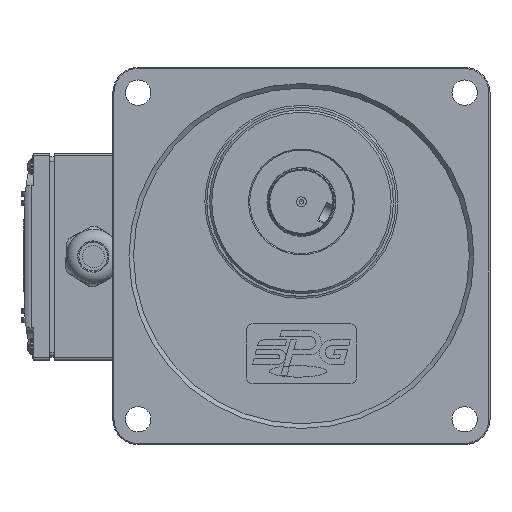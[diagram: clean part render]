
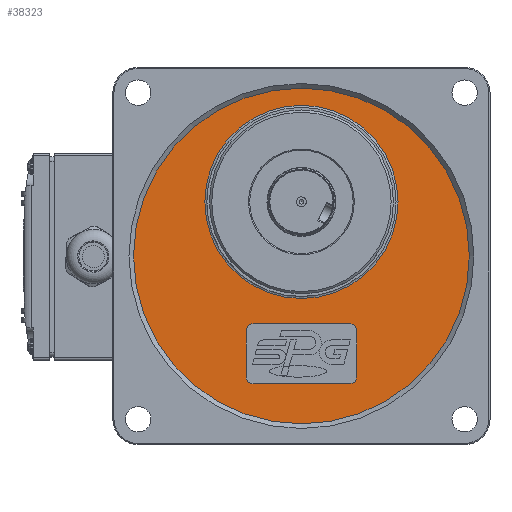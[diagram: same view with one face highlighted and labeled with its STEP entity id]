
A CAD part, top view. The second image highlights one B-rep face of the part: STEP entity #38323.
In plain terms, the highlighted planar face has unit normal (0, 0, 1).
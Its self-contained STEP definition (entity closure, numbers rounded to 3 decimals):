
#1316=FACE_BOUND('',#6558,.T.);
#1317=FACE_BOUND('',#6559,.T.);
#2057=PLANE('',#41962);
#4269=FACE_OUTER_BOUND('',#6557,.T.);
#6557=EDGE_LOOP('',(#30304));
#6558=EDGE_LOOP('',(#30305,#30306,#30307,#30308,#30309,#30310,#30311,#30312));
#6559=EDGE_LOOP('',(#30313));
#8905=CIRCLE('',#41845,3.);
#8907=CIRCLE('',#41849,3.);
#8909=CIRCLE('',#41853,3.);
#8933=CIRCLE('',#41880,3.);
#8958=CIRCLE('',#41963,73.);
#8959=CIRCLE('',#41964,42.);
#11430=LINE('',#64553,#13840);
#11434=LINE('',#64565,#13844);
#11469=LINE('',#64684,#13879);
#11562=LINE('',#64916,#13972);
#13840=VECTOR('',#50270,42.);
#13844=VECTOR('',#50282,20.);
#13879=VECTOR('',#50373,42.);
#13972=VECTOR('',#50632,20.);
#16832=VERTEX_POINT('',#64543);
#16833=VERTEX_POINT('',#64545);
#16835=VERTEX_POINT('',#64551);
#16837=VERTEX_POINT('',#64557);
#16839=VERTEX_POINT('',#64563);
#16842=VERTEX_POINT('',#64570);
#16843=VERTEX_POINT('',#64572);
#16895=VERTEX_POINT('',#64683);
#16952=VERTEX_POINT('',#64918);
#16953=VERTEX_POINT('',#64920);
#21446=EDGE_CURVE('',#16832,#16833,#8905,.T.);
#21450=EDGE_CURVE('',#16832,#16835,#11430,.T.);
#21453=EDGE_CURVE('',#16837,#16835,#8907,.T.);
#21456=EDGE_CURVE('',#16837,#16839,#11434,.T.);
#21459=EDGE_CURVE('',#16842,#16843,#8909,.T.);
#21516=EDGE_CURVE('',#16895,#16843,#11469,.T.);
#21518=EDGE_CURVE('',#16895,#16839,#8933,.T.);
#21634=EDGE_CURVE('',#16842,#16833,#11562,.T.);
#21635=EDGE_CURVE('',#16952,#16952,#8958,.T.);
#21636=EDGE_CURVE('',#16953,#16953,#8959,.T.);
#30304=ORIENTED_EDGE('',*,*,#21635,.T.);
#30305=ORIENTED_EDGE('',*,*,#21456,.T.);
#30306=ORIENTED_EDGE('',*,*,#21518,.F.);
#30307=ORIENTED_EDGE('',*,*,#21516,.T.);
#30308=ORIENTED_EDGE('',*,*,#21459,.F.);
#30309=ORIENTED_EDGE('',*,*,#21634,.T.);
#30310=ORIENTED_EDGE('',*,*,#21446,.F.);
#30311=ORIENTED_EDGE('',*,*,#21450,.T.);
#30312=ORIENTED_EDGE('',*,*,#21453,.F.);
#30313=ORIENTED_EDGE('',*,*,#21636,.F.);
#38323=ADVANCED_FACE('',(#4269,#1316,#1317),#2057,.F.);
#41845=AXIS2_PLACEMENT_3D('',#64546,#50263,#50264);
#41849=AXIS2_PLACEMENT_3D('',#64559,#50276,#50277);
#41853=AXIS2_PLACEMENT_3D('',#64573,#50288,#50289);
#41880=AXIS2_PLACEMENT_3D('',#64687,#50377,#50378);
#41962=AXIS2_PLACEMENT_3D('',#64917,#50633,#50634);
#41963=AXIS2_PLACEMENT_3D('',#64919,#50635,#50636);
#41964=AXIS2_PLACEMENT_3D('',#64921,#50637,#50638);
#50263=DIRECTION('center_axis',(0.,0.,1.));
#50264=DIRECTION('ref_axis',(0.707,-0.707,0.));
#50270=DIRECTION('',(-1.,0.,0.));
#50276=DIRECTION('center_axis',(0.,0.,1.));
#50277=DIRECTION('ref_axis',(-0.707,-0.707,0.));
#50282=DIRECTION('',(0.,1.,0.));
#50288=DIRECTION('center_axis',(0.,0.,1.));
#50289=DIRECTION('ref_axis',(0.707,0.707,0.));
#50373=DIRECTION('',(1.,0.,0.));
#50377=DIRECTION('center_axis',(0.,0.,1.));
#50378=DIRECTION('ref_axis',(-0.707,0.707,0.));
#50632=DIRECTION('',(0.,-1.,0.));
#50633=DIRECTION('center_axis',(0.,0.,-1.));
#50634=DIRECTION('ref_axis',(-1.,0.,0.));
#50635=DIRECTION('center_axis',(0.,0.,1.));
#50636=DIRECTION('ref_axis',(-1.,0.,0.));
#50637=DIRECTION('center_axis',(0.,0.,1.));
#50638=DIRECTION('ref_axis',(-1.,0.,0.));
#64543=CARTESIAN_POINT('',(21.,-55.5,89.));
#64545=CARTESIAN_POINT('',(24.,-52.5,89.));
#64546=CARTESIAN_POINT('Origin',(21.,-52.5,89.));
#64551=CARTESIAN_POINT('',(-21.,-55.5,89.));
#64553=CARTESIAN_POINT('',(21.,-55.5,89.));
#64557=CARTESIAN_POINT('',(-24.,-52.5,89.));
#64559=CARTESIAN_POINT('Origin',(-21.,-52.5,89.));
#64563=CARTESIAN_POINT('',(-24.,-32.5,89.));
#64565=CARTESIAN_POINT('',(-24.,-52.5,89.));
#64570=CARTESIAN_POINT('',(24.,-32.5,89.));
#64572=CARTESIAN_POINT('',(21.,-29.5,89.));
#64573=CARTESIAN_POINT('Origin',(21.,-32.5,89.));
#64683=CARTESIAN_POINT('',(-21.,-29.5,89.));
#64684=CARTESIAN_POINT('',(-21.,-29.5,89.));
#64687=CARTESIAN_POINT('Origin',(-21.,-32.5,89.));
#64916=CARTESIAN_POINT('',(24.,-32.5,89.));
#64917=CARTESIAN_POINT('Origin',(0.,0.,89.));
#64918=CARTESIAN_POINT('',(73.,0.,89.));
#64919=CARTESIAN_POINT('Origin',(0.,0.,89.));
#64920=CARTESIAN_POINT('',(-42.,23.5,89.));
#64921=CARTESIAN_POINT('Origin',(0.,23.5,89.));
